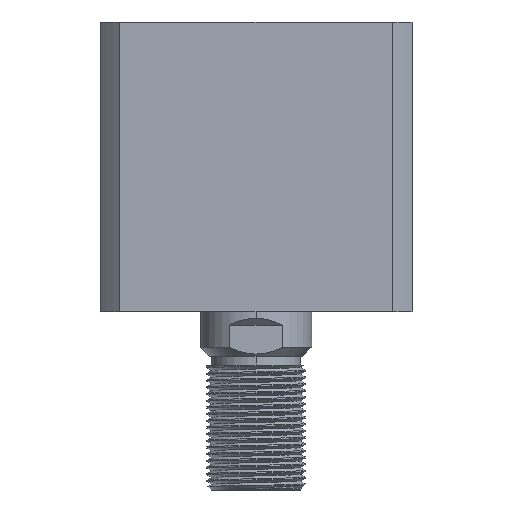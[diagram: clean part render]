
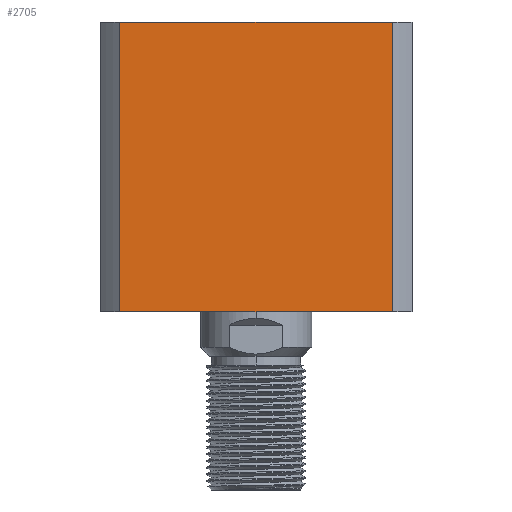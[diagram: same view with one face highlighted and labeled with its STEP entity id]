
A CAD part, front view. The second image highlights one B-rep face of the part: STEP entity #2705.
In plain terms, the highlighted planar face has unit normal (0, -1, 0) as drawn and (1, 0, 0) by its records, which use the part's own axes.
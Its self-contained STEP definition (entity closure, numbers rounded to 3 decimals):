
#421 = LINE ( 'NONE', #9270, #752 ) ;
#634 = EDGE_LOOP ( 'NONE', ( #13269, #5471, #2783, #12429 ) ) ;
#647 = VERTEX_POINT ( 'NONE', #12183 ) ;
#696 = CARTESIAN_POINT ( 'NONE',  ( 35., -30.615, 65. ) ) ;
#740 = VERTEX_POINT ( 'NONE', #6481 ) ;
#752 = VECTOR ( 'NONE', #5099, 1000. ) ;
#843 = CARTESIAN_POINT ( 'NONE',  ( 35., 35., 65. ) ) ;
#2127 = CARTESIAN_POINT ( 'NONE',  ( 35., 35., 0. ) ) ;
#2142 = CARTESIAN_POINT ( 'NONE',  ( 35., 30.615, 0. ) ) ;
#2705 = ADVANCED_FACE ( 'NONE', ( #3614 ), #7105, .F. ) ;
#2773 = LINE ( 'NONE', #4748, #4878 ) ;
#2783 = ORIENTED_EDGE ( 'NONE', *, *, #5767, .F. ) ;
#2885 = DIRECTION ( 'NONE',  ( -1., 0., 0. ) ) ;
#3614 = FACE_OUTER_BOUND ( 'NONE', #634, .T. ) ;
#3627 = CARTESIAN_POINT ( 'NONE',  ( 35., 35., 65. ) ) ;
#4198 = DIRECTION ( 'NONE',  ( 0., 1., 0. ) ) ;
#4748 = CARTESIAN_POINT ( 'NONE',  ( 35., -30.615, 300. ) ) ;
#4786 = VERTEX_POINT ( 'NONE', #2142 ) ;
#4878 = VECTOR ( 'NONE', #11047, 1000. ) ;
#5099 = DIRECTION ( 'NONE',  ( 0., 0., -1. ) ) ;
#5471 = ORIENTED_EDGE ( 'NONE', *, *, #12027, .F. ) ;
#5767 = EDGE_CURVE ( 'NONE', #740, #5846, #2773, .T. ) ;
#5846 = VERTEX_POINT ( 'NONE', #696 ) ;
#6481 = CARTESIAN_POINT ( 'NONE',  ( 35., -30.615, 0. ) ) ;
#7105 = PLANE ( 'NONE',  #11399 ) ;
#7151 = VECTOR ( 'NONE', #4198, 1000. ) ;
#7373 = EDGE_CURVE ( 'NONE', #647, #4786, #421, .T. ) ;
#9200 = DIRECTION ( 'NONE',  ( 0., 0., 1. ) ) ;
#9270 = CARTESIAN_POINT ( 'NONE',  ( 35., 30.615, 300. ) ) ;
#9723 = EDGE_CURVE ( 'NONE', #740, #4786, #12728, .T. ) ;
#10714 = LINE ( 'NONE', #3627, #13182 ) ;
#10975 = DIRECTION ( 'NONE',  ( 0., 1., 0. ) ) ;
#11047 = DIRECTION ( 'NONE',  ( 0., 0., 1. ) ) ;
#11399 = AXIS2_PLACEMENT_3D ( 'NONE', #843, #2885, #9200 ) ;
#12027 = EDGE_CURVE ( 'NONE', #5846, #647, #10714, .T. ) ;
#12183 = CARTESIAN_POINT ( 'NONE',  ( 35., 30.615, 65. ) ) ;
#12429 = ORIENTED_EDGE ( 'NONE', *, *, #9723, .T. ) ;
#12728 = LINE ( 'NONE', #2127, #7151 ) ;
#13182 = VECTOR ( 'NONE', #10975, 1000. ) ;
#13269 = ORIENTED_EDGE ( 'NONE', *, *, #7373, .F. ) ;
